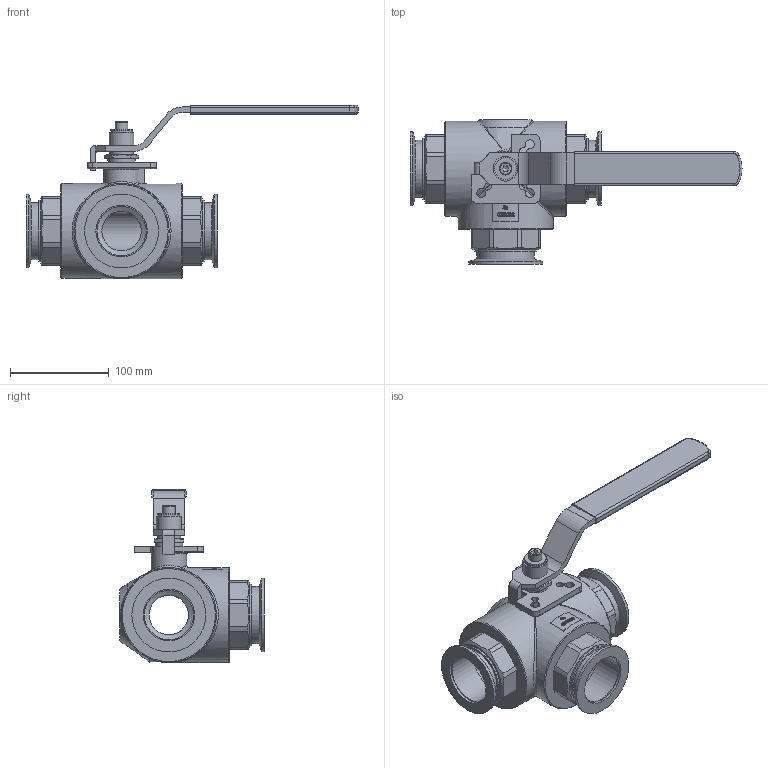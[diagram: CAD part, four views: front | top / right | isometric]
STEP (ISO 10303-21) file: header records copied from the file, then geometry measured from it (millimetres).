
FILE_DESCRIPTION( ( 'Unknown' ), '1' );
FILE_NAME( 'X:/Daten ( aktueller Bestand )/Projekte und Zeichnungen/Solid Edge/STP-Dateien/Kugelhahn, handbetätigt, pneu/4067.stp', 'Unknown', ( 'Unknown' ), ( 'Unknown' ), 'PSStep 14.0', 'Unknown', ' ' );
FILE_SCHEMA( ( 'AUTOMOTIVE_DESIGN { 1 0 10303 214 1 1 1 1 }' ) );
Length unit declared in the file: millimetre
Products named in the file (7): Assem1; PD311X28; HANDHEBEL-PD27_0; H_LSE-PD27_0; DIN EN ISO 4762  (Regelgewinde) M8 x 16_0; SCHEIBE-PD27_0; 1597
Assembly tree (9 placements, depth 2):
  Assem1
    PD311X28
    HANDHEBEL-PD27_0
    H_LSE-PD27_0
    DIN EN ISO 4762  (Regelgewinde) M8 x 16_0
    SCHEIBE-PD27_0  x2
    1597  x3
Bounding box: 337 x 147 x 175.77 mm (x, y, z)
Volume: 1105258.3 mm3; surface area: 191595.1 mm2
Topology: 9 solids, 9 shells, 594 faces, 1516 edges, 993 vertices
Faces by surface type: plane 268, extrusion 138, cylinder 121, bspline 24, cone 22, torus 17, sphere 4
Full cylindrical faces by diameter (mm): 6.647 x1, 8 x1, 8.7 x2, 13 x1, 19.3 x1, 22.3 x2, 24 x1, 25.2 x1, 28 x1, 33 x1, 40 x2, 50 x3, 52.2 x3, 56.656 x3, 58 x3, 59.614 x3, 62.5 x3, 75 x3, 96.5 x3
Entity records: 26101 total; most frequent: CARTESIAN_POINT 8482, ORIENTED_EDGE 2822, DIRECTION 2265, EDGE_CURVE 1411, VERTEX_POINT 949, VECTOR 839, AXIS2_PLACEMENT_3D 713, LINE 701
